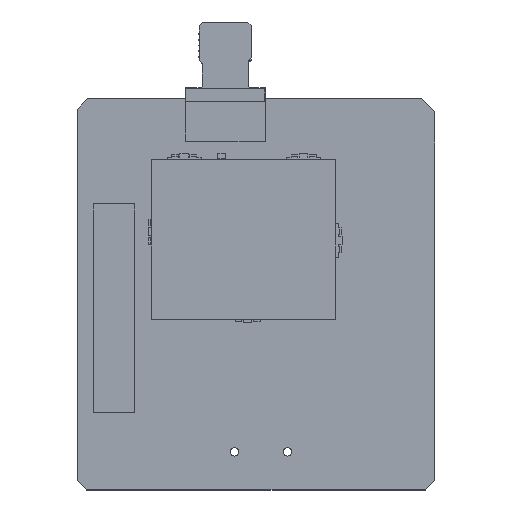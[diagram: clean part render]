
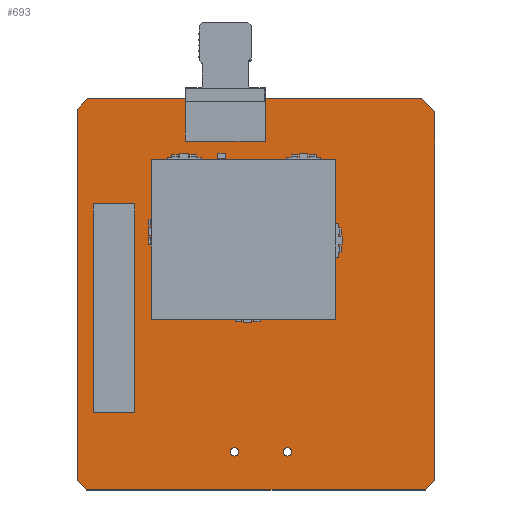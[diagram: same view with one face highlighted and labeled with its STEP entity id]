
A CAD part, top view. The second image highlights one B-rep face of the part: STEP entity #693.
In plain terms, the highlighted planar face has unit normal (0, 0, 1).
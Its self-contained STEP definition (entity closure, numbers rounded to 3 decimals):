
#300 = VERTEX_POINT('',#301);
#301 = CARTESIAN_POINT('',(0.,1.139,1.6));
#307 = EDGE_CURVE('',#300,#308,#310,.T.);
#308 = VERTEX_POINT('',#309);
#309 = CARTESIAN_POINT('',(1.139,0.,1.6));
#310 = LINE('',#311,#312);
#311 = CARTESIAN_POINT('',(0.,1.139,1.6));
#312 = VECTOR('',#313,1.);
#313 = DIRECTION('',(0.707,-0.707,0.));
#338 = EDGE_CURVE('',#308,#339,#341,.T.);
#339 = VERTEX_POINT('',#340);
#340 = CARTESIAN_POINT('',(41.852,0.,1.6));
#341 = LINE('',#342,#343);
#342 = CARTESIAN_POINT('',(1.139,0.,1.6));
#343 = VECTOR('',#344,1.);
#344 = DIRECTION('',(1.,0.,0.));
#369 = EDGE_CURVE('',#339,#370,#372,.T.);
#370 = VERTEX_POINT('',#371);
#371 = CARTESIAN_POINT('',(43.001,1.141,1.6));
#372 = LINE('',#373,#374);
#373 = CARTESIAN_POINT('',(41.852,0.,1.6));
#374 = VECTOR('',#375,1.);
#375 = DIRECTION('',(0.71,0.705,0.));
#400 = EDGE_CURVE('',#370,#401,#403,.T.);
#401 = VERTEX_POINT('',#402);
#402 = CARTESIAN_POINT('',(43.,39.982,1.6));
#403 = LINE('',#404,#405);
#404 = CARTESIAN_POINT('',(43.001,1.141,1.6));
#405 = VECTOR('',#406,1.);
#406 = DIRECTION('',(0.,1.,0.));
#431 = EDGE_CURVE('',#401,#432,#434,.T.);
#432 = VERTEX_POINT('',#433);
#433 = CARTESIAN_POINT('',(43.,45.443,1.6));
#434 = LINE('',#435,#436);
#435 = CARTESIAN_POINT('',(43.,39.982,1.6));
#436 = VECTOR('',#437,1.);
#437 = DIRECTION('',(0.,1.,0.));
#462 = EDGE_CURVE('',#432,#463,#465,.T.);
#463 = VERTEX_POINT('',#464);
#464 = CARTESIAN_POINT('',(41.427,47.015,1.6));
#465 = LINE('',#466,#467);
#466 = CARTESIAN_POINT('',(43.,45.443,1.6));
#467 = VECTOR('',#468,1.);
#468 = DIRECTION('',(-0.707,0.707,0.));
#493 = EDGE_CURVE('',#463,#494,#496,.T.);
#494 = VERTEX_POINT('',#495);
#495 = CARTESIAN_POINT('',(1.273,47.015,1.6));
#496 = LINE('',#497,#498);
#497 = CARTESIAN_POINT('',(41.427,47.015,1.6));
#498 = VECTOR('',#499,1.);
#499 = DIRECTION('',(-1.,0.,0.));
#524 = EDGE_CURVE('',#494,#525,#527,.T.);
#525 = VERTEX_POINT('',#526);
#526 = CARTESIAN_POINT('',(0.003,45.745,1.6));
#527 = LINE('',#528,#529);
#528 = CARTESIAN_POINT('',(1.273,47.015,1.6));
#529 = VECTOR('',#530,1.);
#530 = DIRECTION('',(-0.707,-0.707,0.));
#555 = EDGE_CURVE('',#525,#556,#558,.T.);
#556 = VERTEX_POINT('',#557);
#557 = CARTESIAN_POINT('',(0.,45.72,1.6));
#558 = LINE('',#559,#560);
#559 = CARTESIAN_POINT('',(0.003,45.745,1.6));
#560 = VECTOR('',#561,1.);
#561 = DIRECTION('',(-0.119,-0.993,0.));
#586 = EDGE_CURVE('',#556,#300,#587,.T.);
#587 = LINE('',#588,#589);
#588 = CARTESIAN_POINT('',(0.,45.72,1.6));
#589 = VECTOR('',#590,1.);
#590 = DIRECTION('',(0.,-1.,0.));
#610 = VERTEX_POINT('',#611);
#611 = CARTESIAN_POINT('',(19.426,4.579,1.6));
#617 = EDGE_CURVE('',#610,#610,#618,.T.);
#618 = CIRCLE('',#619,0.5);
#619 = AXIS2_PLACEMENT_3D('',#620,#621,#622);
#620 = CARTESIAN_POINT('',(18.926,4.579,1.6));
#621 = DIRECTION('',(0.,0.,1.));
#622 = DIRECTION('',(1.,0.,-0.));
#643 = VERTEX_POINT('',#644);
#644 = CARTESIAN_POINT('',(25.776,4.579,1.6));
#650 = EDGE_CURVE('',#643,#643,#651,.T.);
#651 = CIRCLE('',#652,0.5);
#652 = AXIS2_PLACEMENT_3D('',#653,#654,#655);
#653 = CARTESIAN_POINT('',(25.276,4.579,1.6));
#654 = DIRECTION('',(0.,0.,1.));
#655 = DIRECTION('',(1.,0.,-0.));
#693 = ADVANCED_FACE('',(#694,#706,#709),#712,.T.);
#694 = FACE_BOUND('',#695,.T.);
#695 = EDGE_LOOP('',(#696,#697,#698,#699,#700,#701,#702,#703,#704,#705)
  );
#696 = ORIENTED_EDGE('',*,*,#307,.T.);
#697 = ORIENTED_EDGE('',*,*,#338,.T.);
#698 = ORIENTED_EDGE('',*,*,#369,.T.);
#699 = ORIENTED_EDGE('',*,*,#400,.T.);
#700 = ORIENTED_EDGE('',*,*,#431,.T.);
#701 = ORIENTED_EDGE('',*,*,#462,.T.);
#702 = ORIENTED_EDGE('',*,*,#493,.T.);
#703 = ORIENTED_EDGE('',*,*,#524,.T.);
#704 = ORIENTED_EDGE('',*,*,#555,.T.);
#705 = ORIENTED_EDGE('',*,*,#586,.T.);
#706 = FACE_BOUND('',#707,.T.);
#707 = EDGE_LOOP('',(#708));
#708 = ORIENTED_EDGE('',*,*,#617,.F.);
#709 = FACE_BOUND('',#710,.T.);
#710 = EDGE_LOOP('',(#711));
#711 = ORIENTED_EDGE('',*,*,#650,.F.);
#712 = PLANE('',#713);
#713 = AXIS2_PLACEMENT_3D('',#714,#715,#716);
#714 = CARTESIAN_POINT('',(21.478,23.462,1.6));
#715 = DIRECTION('',(0.,0.,1.));
#716 = DIRECTION('',(1.,0.,-0.));
